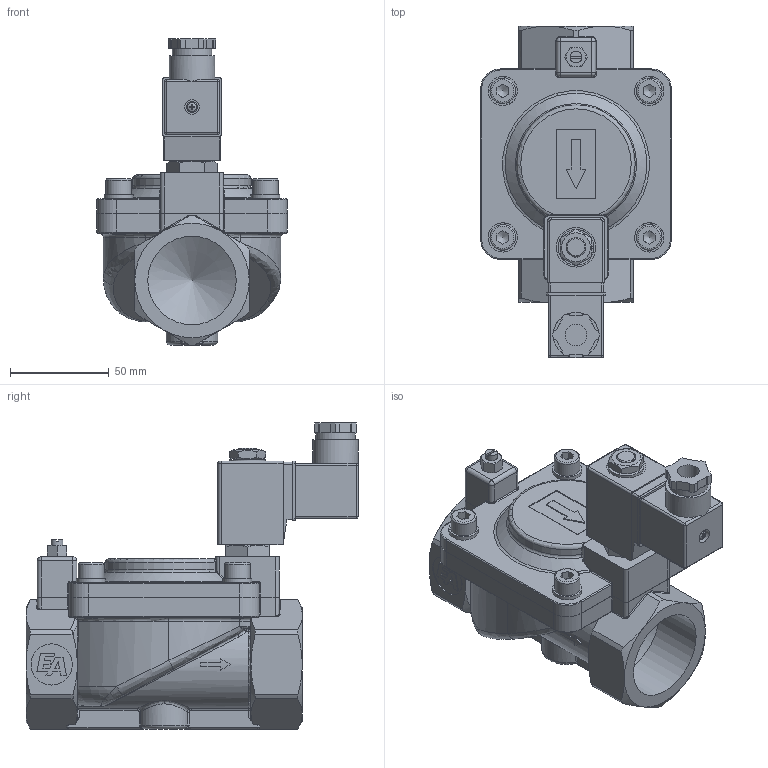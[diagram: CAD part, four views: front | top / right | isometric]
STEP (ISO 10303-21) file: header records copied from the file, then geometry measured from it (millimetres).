
FILE_DESCRIPTION(/* description */ ('2/2-Wege Magnetventl, servogesteuert, Messing, 11/2"'),/* implementation_level */ '2;1');
FILE_NAME(/* name */ 'U:\Eigene Dateien\Zeichnungen\STEP\MGMG2S12xx43040.stp',/* time_stamp */ '2019-02-19T08:05:38+01:00',/* author */ ('Hois'),/* organization */ (''),/* preprocessor_version */ 'ST-DEVELOPER v17',/* originating_system */ 'Autodesk Inventor 2019',/* authorisation */ '');
FILE_SCHEMA (('AUTOMOTIVE_DESIGN { 1 0 10303 214 3 1 1 }'));
Length unit declared in the file: millimetre
Products named in the file (8): MGMG2S12xx43040; MGMG2S12xx43040-GEH; SGxx43-S; DIN 128 - A10; ISO 8675 - M10 x 1; DIN 127 - A 8; STD-000179; ISO 7045 - M3 x 30 - 4.8 - H
Assembly tree (13 placements, depth 2):
  MGMG2S12xx43040
    MGMG2S12xx43040-GEH
    SGxx43-S
    DIN 128 - A10
    ISO 8675 - M10 x 1
    DIN 127 - A 8  x4
    STD-000179  x4
    ISO 7045 - M3 x 30 - 4.8 - H
Bounding box: 96.5 x 168.25 x 155.15 mm (x, y, z)
Volume: 621243.1 mm3; surface area: 90311.2 mm2
Topology: 13 solids, 13 shells, 739 faces, 1892 edges, 1190 vertices
Faces by surface type: plane 324, cylinder 200, cone 72, bspline 71, torus 52, sphere 20
Full cylindrical faces by diameter (mm): 2.729 x1, 3 x1, 6 x1, 6.647 x4, 7.3 x1, 8 x4, 8.5 x4, 8.917 x1, 9.73 x1, 10 x1, 11 x1, 13 x4, 14.5 x1, 14.75 x1, 17.75 x1, 20 x2, 20.892 x2, 23 x1, 44.845 x2
Entity records: 22798 total; most frequent: CARTESIAN_POINT 6632, ORIENTED_EDGE 3380, DIRECTION 3269, EDGE_CURVE 1690, AXIS2_PLACEMENT_3D 1242, VERTEX_POINT 1067, LINE 785, VECTOR 785
